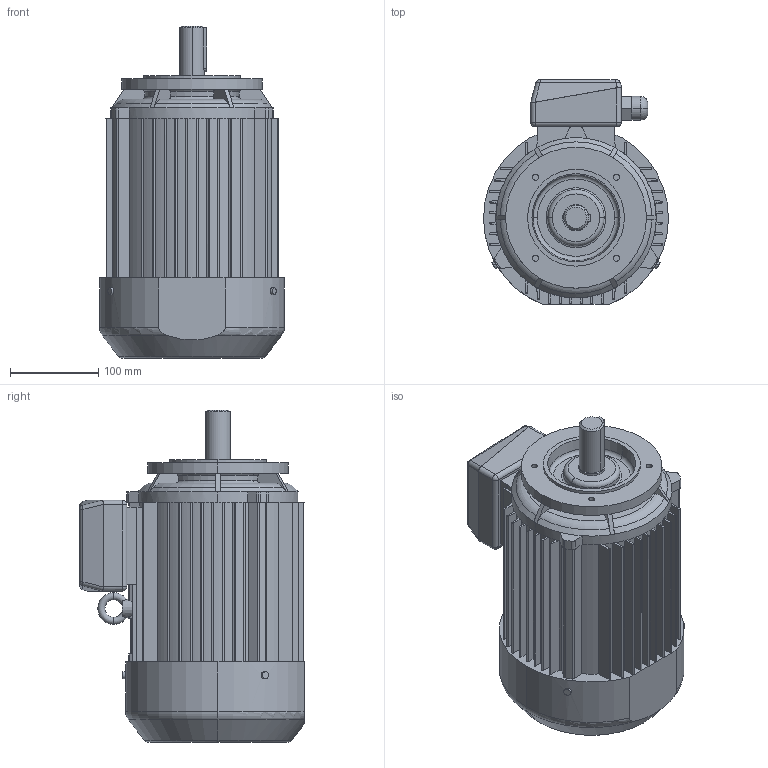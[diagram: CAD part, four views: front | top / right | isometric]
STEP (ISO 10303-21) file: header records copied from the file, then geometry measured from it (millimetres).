
FILE_DESCRIPTION (( 'STEP AP203' ), '1' );
FILE_NAME ('3SIEK100L2,6-B14-C2.STEP', '2016-02-08T12:14:09', ( 'Indukta' ), ( 'Celma Indukta S.A.' ), 'SwSTEP 2.0', 'SolidWorks 2003064', '' );
FILE_SCHEMA (( 'CONFIG_CONTROL_DESIGN' ));
Length unit declared in the file: millimetre
Products named in the file (1): 3SIEK100L2,6-B14-C2
Bounding box: 210 x 255 x 377 mm (x, y, z)
Volume: 9316856.5 mm3; surface area: 453081.3 mm2
Topology: 1 solids, 1 shells, 625 faces, 1672 edges, 1061 vertices
Faces by surface type: plane 315, cylinder 161, bspline 78, torus 43, cone 20, sphere 8
Entity records: 26310 total; most frequent: CARTESIAN_POINT 11029, ORIENTED_EDGE 3328, DIRECTION 2978, EDGE_CURVE 1664, VERTEX_POINT 1061, AXIS2_PLACEMENT_3D 1036, LINE 906, VECTOR 906
